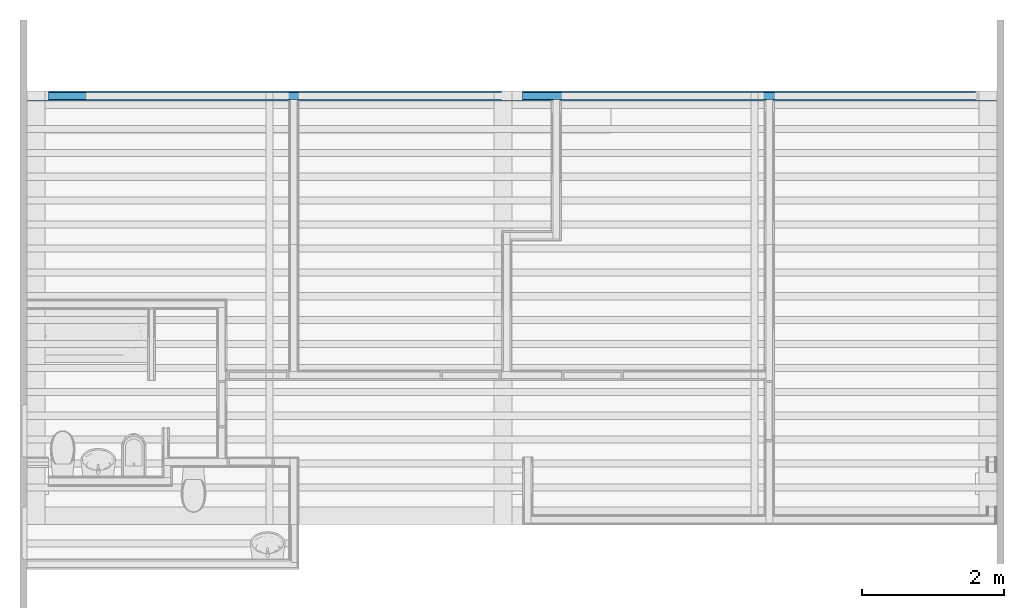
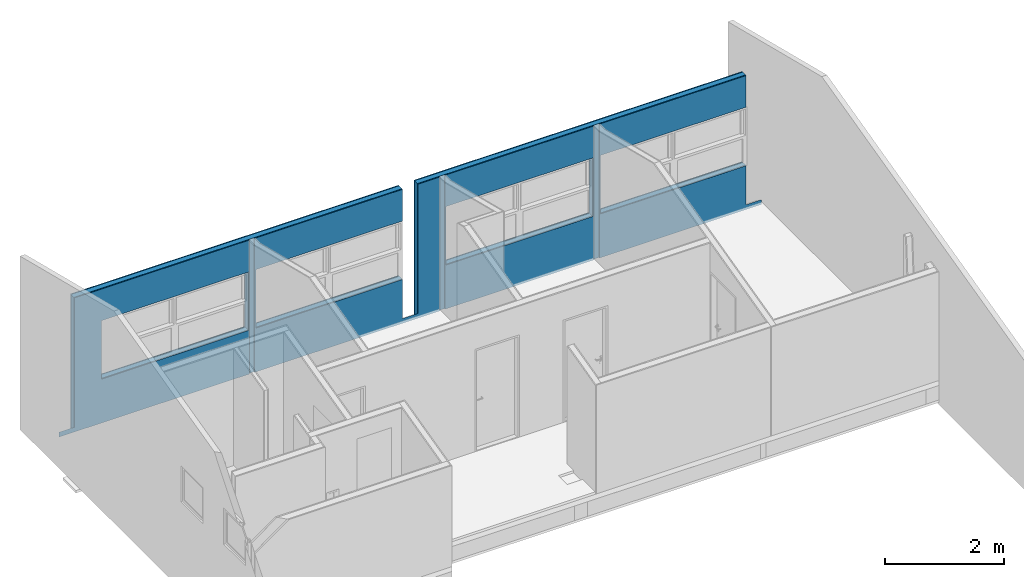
# One storey, part 4 of 13: 3 building element parts, 4 openings, 1 element without a shape of its own.
"""IFC2X3 building model written with IfcOpenShell, lengths in millimetres."""

from ifc_helpers import new_model, entity, si_unit, converted_unit, derived_unit, money_unit, direction, frame, origin_with_axes, origin_2d_with_axis, place, context, subcontext, project, spatial, polyline, rectangle, outline, extrude, boolean, faceted_brep, material, type_object, element, aggregate, save


model = new_model("IFC2X3")

# Units and contexts
model_context = context("Model", 3, precision=0.01, world=origin_with_axes(), true_north=direction((0.293984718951, 0.955810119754)))
body_context = subcontext(model_context, "Body", "Model", "MODEL_VIEW")
ifc_project = project(units=[si_unit("LENGTHUNIT", "METRE", prefix="MILLI"), si_unit("AREAUNIT", "SQUARE_METRE"), si_unit("VOLUMEUNIT", "CUBIC_METRE"), converted_unit("PLANEANGLEUNIT", "DEGREE", entity("IfcPlaneAngleMeasure", 0.0174532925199), si_unit("PLANEANGLEUNIT", "RADIAN"), dimensions=[0, 0, 0, 0, 0, 0, 0]), si_unit("SOLIDANGLEUNIT", "STERADIAN"), money_unit("USD"), converted_unit("TIMEUNIT", "Year", entity("IfcTimeMeasure", 31556926.0), si_unit("TIMEUNIT", "SECOND"), dimensions=[0, 0, 1, 0, 0, 0, 0]), si_unit("MASSUNIT", "GRAM", prefix="KILO"), si_unit("THERMODYNAMICTEMPERATUREUNIT", "DEGREE_CELSIUS"), si_unit("LUMINOUSINTENSITYUNIT", "LUMEN"), si_unit("ENERGYUNIT", "JOULE", prefix="MEGA"), derived_unit("THERMALCONDUCTANCEUNIT", [(si_unit("POWERUNIT", "WATT"), 1), (si_unit("LENGTHUNIT", "METRE"), -1), (si_unit("THERMODYNAMICTEMPERATUREUNIT", "KELVIN"), -1)]), derived_unit("SPECIFICHEATCAPACITYUNIT", [(si_unit("ENERGYUNIT", "JOULE"), 1), (si_unit("MASSUNIT", "GRAM", prefix="KILO"), -1), (si_unit("THERMODYNAMICTEMPERATUREUNIT", "KELVIN"), -1)]), derived_unit("MASSDENSITYUNIT", [(si_unit("MASSUNIT", "GRAM", prefix="KILO"), 1), (si_unit("VOLUMEUNIT", "CUBIC_METRE"), -1)])], contexts=[model_context])

# Site, building, storey
site_placement = place(None, origin_with_axes())
site = spatial("IfcSite", under=ifc_project, at=site_placement, Name="Local", CompositionType="ELEMENT")
building_placement = place(site_placement, origin_with_axes())
building = spatial("IfcBuilding", under=site, at=building_placement, Name="Construção", CompositionType="ELEMENT")
storey_placement = place(building_placement, frame((0.0, 0.0, 3050.0), z_axis=(0.0, 0.0, 1.0), x_axis=(1.0, 0.0, 0.0)))
storey = spatial("IfcBuildingStorey", under=building, at=storey_placement, Name="Primeiro Pavimento", CompositionType="ELEMENT", Elevation=3050.0)

# Wall, openings, building element parts
wall_type = type_object("IfcWallType", Name="Alvenaria Tijolo Maciço com Revestimento 14cm 140", PredefinedType="NOTDEFINED")
wall_placement = place(storey_placement, frame((7009.64507267, 12950.6321979, 0.0), z_axis=(0.0, 0.0, 1.0), x_axis=(1.0, 0.0, 0.0)))
wall = element("IfcWall", 1, at=wall_placement, inside=storey, type_object=wall_type, Name="Parede")
opening_1_placement = place(wall_placement, frame((2255.00000003, -3.30757643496e-09, 900.0), z_axis=(0.0, 0.0, 1.0), x_axis=(1.0, 0.0, 0.0)))
element("IfcOpeningElement", 2, at=opening_1_placement, cuts=wall, Name="J02", context=body_context, shape_type="SweptSolid", body=[
    extrude(rectangle(XDim=2850.0, YDim=1200.0, at=origin_2d_with_axis()), frame((0.0, -140.0, 600.0), z_axis=(0.0, -1.0, 0.0), x_axis=(1.0, 0.0, 0.0)), (0.0, 0.0, -1.0), 420.0),
])
opening_2_placement = place(wall_placement, frame((5245.0, -7.6916251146e-09, 900.0), z_axis=(0.0, 0.0, 1.0), x_axis=(1.0, 0.0, 0.0)))
element("IfcOpeningElement", 3, at=opening_2_placement, cuts=wall, Name="J02", context=body_context, shape_type="SweptSolid", body=[
    extrude(rectangle(XDim=2850.0, YDim=1200.0, at=origin_2d_with_axis()), frame((0.0, -140.0, 600.0), z_axis=(0.0, -1.0, 0.0), x_axis=(1.0, 0.0, 0.0)), (0.0, 0.0, -1.0), 420.0),
])
opening_3_placement = place(wall_placement, frame((8940.00000003, -1.31095134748e-08, 900.0), z_axis=(0.0, 0.0, 1.0), x_axis=(1.0, 0.0, 0.0)))
element("IfcOpeningElement", 4, at=opening_3_placement, cuts=wall, Name="J02", context=body_context, shape_type="SweptSolid", body=[
    extrude(rectangle(XDim=2850.0, YDim=1200.0, at=origin_2d_with_axis()), frame((0.0, -140.0, 600.0), z_axis=(0.0, -1.0, 0.0), x_axis=(1.0, 0.0, 0.0)), (0.0, 0.0, -1.0), 420.0),
])
opening_4_placement = place(wall_placement, frame((11935.0, -1.75024439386e-08, 900.0), z_axis=(0.0, 0.0, 1.0), x_axis=(1.0, 0.0, 0.0)))
element("IfcOpeningElement", 5, at=opening_4_placement, cuts=wall, Name="J02", context=body_context, shape_type="SweptSolid", body=[
    extrude(rectangle(XDim=2850.0, YDim=1200.0, at=origin_2d_with_axis()), frame((0.0, -140.0, 600.0), z_axis=(0.0, -1.0, 0.0), x_axis=(1.0, 0.0, 0.0)), (0.0, 0.0, -1.0), 420.0),
])
ifc_material_1 = material(Name="Reboco (1)")
building_element_part_1_placement = place(wall_placement, origin_with_axes())
building_element_part_1 = element("IfcBuildingElementPart", 6, at=building_element_part_1_placement, material=ifc_material_1, Name="Reboco (1)", context=body_context, shape_type="CSG", body=[
    boolean("DIFFERENCE", boolean("DIFFERENCE", boolean("DIFFERENCE", extrude(outline(polyline([(-100.0, -140.0), (13740.0, -140.0), (13740.0, -120.0), (-100.0, -120.0), (-100.0, -140.0)])), origin_with_axes(), (0.0, 0.0, 1.0), 3211.87314734), faceted_brep([(10490.0, -119.999999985, 2749.99302172), (10490.0, -119.999999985, 0.0), (10390.0, -119.999999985, 0.0), (10390.0, -119.999999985, 2749.99302172), (7495.00000003, -119.999999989, 2749.99302172), (7495.00000003, -119.999999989, 0.0), (7395.00000003, -119.999999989, 0.0), (7395.00000003, -119.999999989, 2749.99302172), (6970.0, -119.99999999, 2749.99302172), (6970.0, -119.99999999, 0.0), (6670.0, -119.99999999, 0.0), (6670.0, -119.99999999, 2749.99302172), (3800.00000003, -119.999999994, 2749.99302172), (3800.00000003, -119.999999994, 0.0), (3700.00000003, -119.999999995, 0.0), (3700.00000003, -119.999999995, 2749.99302172), (300.0, -120.0, 2749.99302172), (300.0, -120.0, 0.0), (-100.0, -120.0, 0.0), (-100.0, -120.0, 3211.87314734), (13740.0, -120.0, 3211.87314734), (13740.0, -120.0, 0.0), (13340.0, -119.99999998, 0.0), (13340.0, -119.99999998, 2749.99302172), (10490.0, -139.999999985, 2749.99302172), (10490.0, -139.999999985, 0.0), (10390.0, -139.999999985, 0.0), (10390.0, -139.999999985, 2749.99302172), (7495.00000003, -139.999999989, 2749.99302172), (7495.00000003, -139.999999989, 0.0), (7395.00000003, -139.999999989, 0.0), (7395.00000003, -139.999999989, 2749.99302172), (6970.0, -139.99999999, 2749.99302172), (6970.0, -134.051724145, 0.0), (6970.0, -139.99999999, 98.5714282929), (6670.0, -134.051724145, 0.0), (6670.0, -139.99999999, 98.5714282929), (6670.0, -139.99999999, 2749.99302172), (3800.00000003, -139.999999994, 2749.99302172), (3800.00000003, -139.999999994, 0.0), (3700.00000003, -139.999999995, 0.0), (3700.00000003, -139.999999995, 2749.99302172), (300.0, -140.0, 2749.99302172), (300.0, -134.051724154, 0.0), (300.0, -140.0, 98.5714282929), (1.94511073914e-10, -134.051724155, 0.0), (2.05169214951e-10, -140.0, 0.0), (-100.0, -140.0, 0.0), (-100.0, -140.0, 3211.87314734), (13740.0, -140.0, 3211.87314734), (13740.0, -140.0, 0.0), (13340.0, -134.051724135, 0.0), (13639.9999996, -139.99999998, 0.0), (13640.0, -134.051724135, 0.0), (13340.0, -139.99999998, 98.5714282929), (13340.0, -139.99999998, 2749.99302172), (13640.0, -139.99999998, 98.5714282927), (2.03392858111e-10, -140.0, 98.5714282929)], [[[0, 1, 2, 3, 4, 5, 6, 7, 8, 9, 10, 11, 12, 13, 14, 15, 16, 17, 18, 19, 20, 21, 22, 23]], [[1, 0, 24, 25]], [[1, 25, 26, 2]], [[3, 2, 26, 27]], [[27, 28, 4, 3]], [[5, 4, 28, 29]], [[5, 29, 30, 6]], [[7, 6, 30, 31]], [[31, 32, 8, 7]], [[33, 9, 8, 32, 34]], [[35, 10, 9, 33]], [[10, 35, 36, 37, 11]], [[37, 38, 12, 11]], [[13, 12, 38, 39]], [[13, 39, 40, 14]], [[15, 14, 40, 41]], [[41, 42, 16, 15]], [[43, 17, 16, 42, 44]], [[45, 46, 47, 18, 17, 43]], [[19, 18, 47, 48]], [[19, 48, 49, 20]], [[49, 50, 21, 20]], [[51, 22, 21, 50, 52, 53]], [[22, 51, 54, 55, 23]], [[55, 24, 0, 23]], [[56, 52, 50, 49, 48, 47, 46, 57, 44, 42, 41, 40, 39, 38, 37, 36, 34, 32, 31, 30, 29, 28, 27, 26, 25, 24, 55, 54]], [[35, 33, 34, 36]], [[45, 43, 44, 57]], [[46, 45, 57]], [[53, 52, 56]], [[51, 53, 56, 54]]])), faceted_brep([(6970.0, -19.9999999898, 2749.99302172), (6970.0, -19.9999999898, 0.0), (6670.0, -19.9999999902, 0.0), (6670.0, -19.9999999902, 2749.99302172), (300.0, -19.9999999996, 2749.99302172), (300.0, -19.9999999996, 0.0), (-100.0, -20.0, 0.0), (-100.0, -20.0, 3211.87314734), (13740.0, -20.0, 3211.87314734), (13740.0, -20.0, 0.0), (13340.0, -19.9999999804, 0.0), (13340.0, -19.9999999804, 2749.99302172), (6970.0, -119.99999999, 0.0), (6970.0, -119.99999999, 2749.99302172), (6670.0, -119.99999999, 0.0), (6670.0, -119.99999999, 2749.99302172), (300.0, -120.0, 2749.99302172), (300.0, -120.0, 0.0), (-100.0, -120.0, 0.0), (-100.0, -120.0, 3211.87314734), (13740.0, -120.0, 3211.87314734), (13740.0, -120.0, 0.0), (13340.0, -119.99999998, 0.0), (13340.0, -119.99999998, 2749.99302172)], [[[0, 1, 2, 3, 4, 5, 6, 7, 8, 9, 10, 11]], [[12, 1, 0, 13]], [[1, 12, 14, 2]], [[2, 14, 15, 3]], [[15, 16, 4, 3]], [[17, 5, 4, 16]], [[5, 17, 18, 6]], [[7, 6, 18, 19]], [[7, 19, 20, 8]], [[20, 21, 9, 8]], [[22, 10, 9, 21]], [[10, 22, 23, 11]], [[23, 13, 0, 11]], [[23, 22, 21, 20, 19, 18, 17, 16, 15, 14, 12, 13]]])), faceted_brep([(6970.0, 1.02193808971e-08, 2749.99302172), (6970.0, 1.02193808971e-08, 0.0), (6670.0, 9.78062075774e-09, 0.0), (6670.0, 9.78062075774e-09, 2749.99302172), (300.0, 4.38760139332e-10, 2749.99302172), (300.0, 4.38760139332e-10, 0.0), (-100.0, 0.0, 0.0), (-100.0, 0.0, 3211.87314734), (13740.0, 0.0, 3211.87314734), (13740.0, 0.0, 0.0), (13340.0, 1.95612415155e-08, 0.0), (13340.0, 1.95612415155e-08, 2749.99302172), (6970.0, -19.9999999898, 2749.99302172), (6970.0, -19.9999999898, 0.0), (6670.0, -19.9999999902, 0.0), (6670.0, -19.9999999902, 2749.99302172), (300.0, -19.9999999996, 2749.99302172), (300.0, -19.9999999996, 0.0), (-100.0, -20.0, 0.0), (-100.0, -20.0, 3211.87314734), (13740.0, -20.0, 3211.87314734), (13740.0, -20.0, 0.0), (13340.0, -19.9999999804, 0.0), (13340.0, -19.9999999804, 2749.99302172)], [[[0, 1, 2, 3, 4, 5, 6, 7, 8, 9, 10, 11]], [[1, 0, 12, 13]], [[1, 13, 14, 2]], [[3, 2, 14, 15]], [[4, 3, 15, 16]], [[5, 4, 16, 17]], [[5, 17, 18, 6]], [[7, 6, 18, 19]], [[7, 19, 20, 8]], [[20, 21, 9, 8]], [[22, 10, 9, 21]], [[11, 10, 22, 23]], [[0, 11, 23, 12]], [[23, 22, 21, 20, 19, 18, 17, 16, 15, 14, 13, 12]]])),
])
ifc_material_2 = material(Name="Tijolo - Estrutural (1)")
building_element_part_2_placement = place(wall_placement, origin_with_axes())
building_element_part_2 = element("IfcBuildingElementPart", 7, at=building_element_part_2_placement, material=ifc_material_2, Name="Tijolo - Estrutural (1)", context=body_context, shape_type="CSG", body=[
    boolean("DIFFERENCE", boolean("DIFFERENCE", boolean("DIFFERENCE", extrude(outline(polyline([(-100.0, -120.0), (13740.0, -120.0), (13740.0, -20.0), (-100.0, -20.0), (-100.0, -120.0)])), origin_with_axes(), (0.0, 0.0, 1.0), 3211.87314734), faceted_brep([(10490.0, -119.999999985, 2749.99302172), (10490.0, -119.999999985, 0.0), (10390.0, -119.999999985, 0.0), (10390.0, -119.999999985, 2749.99302172), (7495.00000003, -119.999999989, 2749.99302172), (7495.00000003, -119.999999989, 0.0), (7395.00000003, -119.999999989, 0.0), (7395.00000003, -119.999999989, 2749.99302172), (6970.0, -119.99999999, 2749.99302172), (6970.0, -119.99999999, 0.0), (6670.0, -119.99999999, 0.0), (6670.0, -119.99999999, 2749.99302172), (3800.00000003, -119.999999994, 2749.99302172), (3800.00000003, -119.999999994, 0.0), (3700.00000003, -119.999999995, 0.0), (3700.00000003, -119.999999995, 2749.99302172), (300.0, -120.0, 2749.99302172), (300.0, -120.0, 0.0), (-100.0, -120.0, 0.0), (-100.0, -120.0, 3211.87314734), (13740.0, -120.0, 3211.87314734), (13740.0, -120.0, 0.0), (13340.0, -119.99999998, 0.0), (13340.0, -119.99999998, 2749.99302172), (10490.0, -139.999999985, 2749.99302172), (10490.0, -139.999999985, 0.0), (10390.0, -139.999999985, 0.0), (10390.0, -139.999999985, 2749.99302172), (7495.00000003, -139.999999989, 2749.99302172), (7495.00000003, -139.999999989, 0.0), (7395.00000003, -139.999999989, 0.0), (7395.00000003, -139.999999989, 2749.99302172), (6970.0, -139.99999999, 2749.99302172), (6970.0, -134.051724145, 0.0), (6970.0, -139.99999999, 98.5714282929), (6670.0, -134.051724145, 0.0), (6670.0, -139.99999999, 98.5714282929), (6670.0, -139.99999999, 2749.99302172), (3800.00000003, -139.999999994, 2749.99302172), (3800.00000003, -139.999999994, 0.0), (3700.00000003, -139.999999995, 0.0), (3700.00000003, -139.999999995, 2749.99302172), (300.0, -140.0, 2749.99302172), (300.0, -134.051724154, 0.0), (300.0, -140.0, 98.5714282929), (1.94511073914e-10, -134.051724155, 0.0), (2.05169214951e-10, -140.0, 0.0), (-100.0, -140.0, 0.0), (-100.0, -140.0, 3211.87314734), (13740.0, -140.0, 3211.87314734), (13740.0, -140.0, 0.0), (13340.0, -134.051724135, 0.0), (13639.9999996, -139.99999998, 0.0), (13640.0, -134.051724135, 0.0), (13340.0, -139.99999998, 98.5714282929), (13340.0, -139.99999998, 2749.99302172), (13640.0, -139.99999998, 98.5714282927), (2.03392858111e-10, -140.0, 98.5714282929)], [[[0, 1, 2, 3, 4, 5, 6, 7, 8, 9, 10, 11, 12, 13, 14, 15, 16, 17, 18, 19, 20, 21, 22, 23]], [[1, 0, 24, 25]], [[1, 25, 26, 2]], [[3, 2, 26, 27]], [[27, 28, 4, 3]], [[5, 4, 28, 29]], [[5, 29, 30, 6]], [[7, 6, 30, 31]], [[31, 32, 8, 7]], [[33, 9, 8, 32, 34]], [[35, 10, 9, 33]], [[10, 35, 36, 37, 11]], [[37, 38, 12, 11]], [[13, 12, 38, 39]], [[13, 39, 40, 14]], [[15, 14, 40, 41]], [[41, 42, 16, 15]], [[43, 17, 16, 42, 44]], [[45, 46, 47, 18, 17, 43]], [[19, 18, 47, 48]], [[19, 48, 49, 20]], [[49, 50, 21, 20]], [[51, 22, 21, 50, 52, 53]], [[22, 51, 54, 55, 23]], [[55, 24, 0, 23]], [[56, 52, 50, 49, 48, 47, 46, 57, 44, 42, 41, 40, 39, 38, 37, 36, 34, 32, 31, 30, 29, 28, 27, 26, 25, 24, 55, 54]], [[35, 33, 34, 36]], [[45, 43, 44, 57]], [[46, 45, 57]], [[53, 52, 56]], [[51, 53, 56, 54]]])), faceted_brep([(6970.0, -19.9999999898, 2749.99302172), (6970.0, -19.9999999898, 0.0), (6670.0, -19.9999999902, 0.0), (6670.0, -19.9999999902, 2749.99302172), (300.0, -19.9999999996, 2749.99302172), (300.0, -19.9999999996, 0.0), (-100.0, -20.0, 0.0), (-100.0, -20.0, 3211.87314734), (13740.0, -20.0, 3211.87314734), (13740.0, -20.0, 0.0), (13340.0, -19.9999999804, 0.0), (13340.0, -19.9999999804, 2749.99302172), (6970.0, -119.99999999, 0.0), (6970.0, -119.99999999, 2749.99302172), (6670.0, -119.99999999, 0.0), (6670.0, -119.99999999, 2749.99302172), (300.0, -120.0, 2749.99302172), (300.0, -120.0, 0.0), (-100.0, -120.0, 0.0), (-100.0, -120.0, 3211.87314734), (13740.0, -120.0, 3211.87314734), (13740.0, -120.0, 0.0), (13340.0, -119.99999998, 0.0), (13340.0, -119.99999998, 2749.99302172)], [[[0, 1, 2, 3, 4, 5, 6, 7, 8, 9, 10, 11]], [[12, 1, 0, 13]], [[1, 12, 14, 2]], [[2, 14, 15, 3]], [[15, 16, 4, 3]], [[17, 5, 4, 16]], [[5, 17, 18, 6]], [[7, 6, 18, 19]], [[7, 19, 20, 8]], [[20, 21, 9, 8]], [[22, 10, 9, 21]], [[10, 22, 23, 11]], [[23, 13, 0, 11]], [[23, 22, 21, 20, 19, 18, 17, 16, 15, 14, 12, 13]]])), faceted_brep([(6970.0, 1.02193808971e-08, 2749.99302172), (6970.0, 1.02193808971e-08, 0.0), (6670.0, 9.78062075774e-09, 0.0), (6670.0, 9.78062075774e-09, 2749.99302172), (300.0, 4.38760139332e-10, 2749.99302172), (300.0, 4.38760139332e-10, 0.0), (-100.0, 0.0, 0.0), (-100.0, 0.0, 3211.87314734), (13740.0, 0.0, 3211.87314734), (13740.0, 0.0, 0.0), (13340.0, 1.95612415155e-08, 0.0), (13340.0, 1.95612415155e-08, 2749.99302172), (6970.0, -19.9999999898, 2749.99302172), (6970.0, -19.9999999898, 0.0), (6670.0, -19.9999999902, 0.0), (6670.0, -19.9999999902, 2749.99302172), (300.0, -19.9999999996, 2749.99302172), (300.0, -19.9999999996, 0.0), (-100.0, -20.0, 0.0), (-100.0, -20.0, 3211.87314734), (13740.0, -20.0, 3211.87314734), (13740.0, -20.0, 0.0), (13340.0, -19.9999999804, 0.0), (13340.0, -19.9999999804, 2749.99302172)], [[[0, 1, 2, 3, 4, 5, 6, 7, 8, 9, 10, 11]], [[1, 0, 12, 13]], [[1, 13, 14, 2]], [[3, 2, 14, 15]], [[4, 3, 15, 16]], [[5, 4, 16, 17]], [[5, 17, 18, 6]], [[7, 6, 18, 19]], [[7, 19, 20, 8]], [[20, 21, 9, 8]], [[22, 10, 9, 21]], [[11, 10, 22, 23]], [[0, 11, 23, 12]], [[23, 22, 21, 20, 19, 18, 17, 16, 15, 14, 13, 12]]])),
])
building_element_part_3_placement = place(wall_placement, origin_with_axes())
building_element_part_3 = element("IfcBuildingElementPart", 8, at=building_element_part_3_placement, material=ifc_material_1, Name="Reboco (1)", context=body_context, shape_type="CSG", body=[
    boolean("DIFFERENCE", boolean("DIFFERENCE", boolean("DIFFERENCE", extrude(outline(polyline([(-100.0, -20.0), (13740.0, -20.0), (13740.0, 0.0), (-100.0, 0.0), (-100.0, -20.0)])), origin_with_axes(), (0.0, 0.0, 1.0), 3211.87314734), faceted_brep([(10490.0, -119.999999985, 2749.99302172), (10490.0, -119.999999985, 0.0), (10390.0, -119.999999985, 0.0), (10390.0, -119.999999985, 2749.99302172), (7495.00000003, -119.999999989, 2749.99302172), (7495.00000003, -119.999999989, 0.0), (7395.00000003, -119.999999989, 0.0), (7395.00000003, -119.999999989, 2749.99302172), (6970.0, -119.99999999, 2749.99302172), (6970.0, -119.99999999, 0.0), (6670.0, -119.99999999, 0.0), (6670.0, -119.99999999, 2749.99302172), (3800.00000003, -119.999999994, 2749.99302172), (3800.00000003, -119.999999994, 0.0), (3700.00000003, -119.999999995, 0.0), (3700.00000003, -119.999999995, 2749.99302172), (300.0, -120.0, 2749.99302172), (300.0, -120.0, 0.0), (-100.0, -120.0, 0.0), (-100.0, -120.0, 3211.87314734), (13740.0, -120.0, 3211.87314734), (13740.0, -120.0, 0.0), (13340.0, -119.99999998, 0.0), (13340.0, -119.99999998, 2749.99302172), (10490.0, -139.999999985, 2749.99302172), (10490.0, -139.999999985, 0.0), (10390.0, -139.999999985, 0.0), (10390.0, -139.999999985, 2749.99302172), (7495.00000003, -139.999999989, 2749.99302172), (7495.00000003, -139.999999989, 0.0), (7395.00000003, -139.999999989, 0.0), (7395.00000003, -139.999999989, 2749.99302172), (6970.0, -139.99999999, 2749.99302172), (6970.0, -134.051724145, 0.0), (6970.0, -139.99999999, 98.5714282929), (6670.0, -134.051724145, 0.0), (6670.0, -139.99999999, 98.5714282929), (6670.0, -139.99999999, 2749.99302172), (3800.00000003, -139.999999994, 2749.99302172), (3800.00000003, -139.999999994, 0.0), (3700.00000003, -139.999999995, 0.0), (3700.00000003, -139.999999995, 2749.99302172), (300.0, -140.0, 2749.99302172), (300.0, -134.051724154, 0.0), (300.0, -140.0, 98.5714282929), (1.94511073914e-10, -134.051724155, 0.0), (2.05169214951e-10, -140.0, 0.0), (-100.0, -140.0, 0.0), (-100.0, -140.0, 3211.87314734), (13740.0, -140.0, 3211.87314734), (13740.0, -140.0, 0.0), (13340.0, -134.051724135, 0.0), (13639.9999996, -139.99999998, 0.0), (13640.0, -134.051724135, 0.0), (13340.0, -139.99999998, 98.5714282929), (13340.0, -139.99999998, 2749.99302172), (13640.0, -139.99999998, 98.5714282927), (2.03392858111e-10, -140.0, 98.5714282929)], [[[0, 1, 2, 3, 4, 5, 6, 7, 8, 9, 10, 11, 12, 13, 14, 15, 16, 17, 18, 19, 20, 21, 22, 23]], [[1, 0, 24, 25]], [[1, 25, 26, 2]], [[3, 2, 26, 27]], [[27, 28, 4, 3]], [[5, 4, 28, 29]], [[5, 29, 30, 6]], [[7, 6, 30, 31]], [[31, 32, 8, 7]], [[33, 9, 8, 32, 34]], [[35, 10, 9, 33]], [[10, 35, 36, 37, 11]], [[37, 38, 12, 11]], [[13, 12, 38, 39]], [[13, 39, 40, 14]], [[15, 14, 40, 41]], [[41, 42, 16, 15]], [[43, 17, 16, 42, 44]], [[45, 46, 47, 18, 17, 43]], [[19, 18, 47, 48]], [[19, 48, 49, 20]], [[49, 50, 21, 20]], [[51, 22, 21, 50, 52, 53]], [[22, 51, 54, 55, 23]], [[55, 24, 0, 23]], [[56, 52, 50, 49, 48, 47, 46, 57, 44, 42, 41, 40, 39, 38, 37, 36, 34, 32, 31, 30, 29, 28, 27, 26, 25, 24, 55, 54]], [[35, 33, 34, 36]], [[45, 43, 44, 57]], [[46, 45, 57]], [[53, 52, 56]], [[51, 53, 56, 54]]])), faceted_brep([(6970.0, -19.9999999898, 2749.99302172), (6970.0, -19.9999999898, 0.0), (6670.0, -19.9999999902, 0.0), (6670.0, -19.9999999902, 2749.99302172), (300.0, -19.9999999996, 2749.99302172), (300.0, -19.9999999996, 0.0), (-100.0, -20.0, 0.0), (-100.0, -20.0, 3211.87314734), (13740.0, -20.0, 3211.87314734), (13740.0, -20.0, 0.0), (13340.0, -19.9999999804, 0.0), (13340.0, -19.9999999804, 2749.99302172), (6970.0, -119.99999999, 0.0), (6970.0, -119.99999999, 2749.99302172), (6670.0, -119.99999999, 0.0), (6670.0, -119.99999999, 2749.99302172), (300.0, -120.0, 2749.99302172), (300.0, -120.0, 0.0), (-100.0, -120.0, 0.0), (-100.0, -120.0, 3211.87314734), (13740.0, -120.0, 3211.87314734), (13740.0, -120.0, 0.0), (13340.0, -119.99999998, 0.0), (13340.0, -119.99999998, 2749.99302172)], [[[0, 1, 2, 3, 4, 5, 6, 7, 8, 9, 10, 11]], [[12, 1, 0, 13]], [[1, 12, 14, 2]], [[2, 14, 15, 3]], [[15, 16, 4, 3]], [[17, 5, 4, 16]], [[5, 17, 18, 6]], [[7, 6, 18, 19]], [[7, 19, 20, 8]], [[20, 21, 9, 8]], [[22, 10, 9, 21]], [[10, 22, 23, 11]], [[23, 13, 0, 11]], [[23, 22, 21, 20, 19, 18, 17, 16, 15, 14, 12, 13]]])), faceted_brep([(6970.0, 1.02193808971e-08, 2749.99302172), (6970.0, 1.02193808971e-08, 0.0), (6670.0, 9.78062075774e-09, 0.0), (6670.0, 9.78062075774e-09, 2749.99302172), (300.0, 4.38760139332e-10, 2749.99302172), (300.0, 4.38760139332e-10, 0.0), (-100.0, 0.0, 0.0), (-100.0, 0.0, 3211.87314734), (13740.0, 0.0, 3211.87314734), (13740.0, 0.0, 0.0), (13340.0, 1.95612415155e-08, 0.0), (13340.0, 1.95612415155e-08, 2749.99302172), (6970.0, -19.9999999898, 2749.99302172), (6970.0, -19.9999999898, 0.0), (6670.0, -19.9999999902, 0.0), (6670.0, -19.9999999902, 2749.99302172), (300.0, -19.9999999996, 2749.99302172), (300.0, -19.9999999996, 0.0), (-100.0, -20.0, 0.0), (-100.0, -20.0, 3211.87314734), (13740.0, -20.0, 3211.87314734), (13740.0, -20.0, 0.0), (13340.0, -19.9999999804, 0.0), (13340.0, -19.9999999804, 2749.99302172)], [[[0, 1, 2, 3, 4, 5, 6, 7, 8, 9, 10, 11]], [[1, 0, 12, 13]], [[1, 13, 14, 2]], [[3, 2, 14, 15]], [[4, 3, 15, 16]], [[5, 4, 16, 17]], [[5, 17, 18, 6]], [[7, 6, 18, 19]], [[7, 19, 20, 8]], [[20, 21, 9, 8]], [[22, 10, 9, 21]], [[11, 10, 22, 23]], [[0, 11, 23, 12]], [[23, 22, 21, 20, 19, 18, 17, 16, 15, 14, 13, 12]]])),
])
aggregate(wall, [building_element_part_1, building_element_part_2, building_element_part_3])

save(model, "model.ifc")
